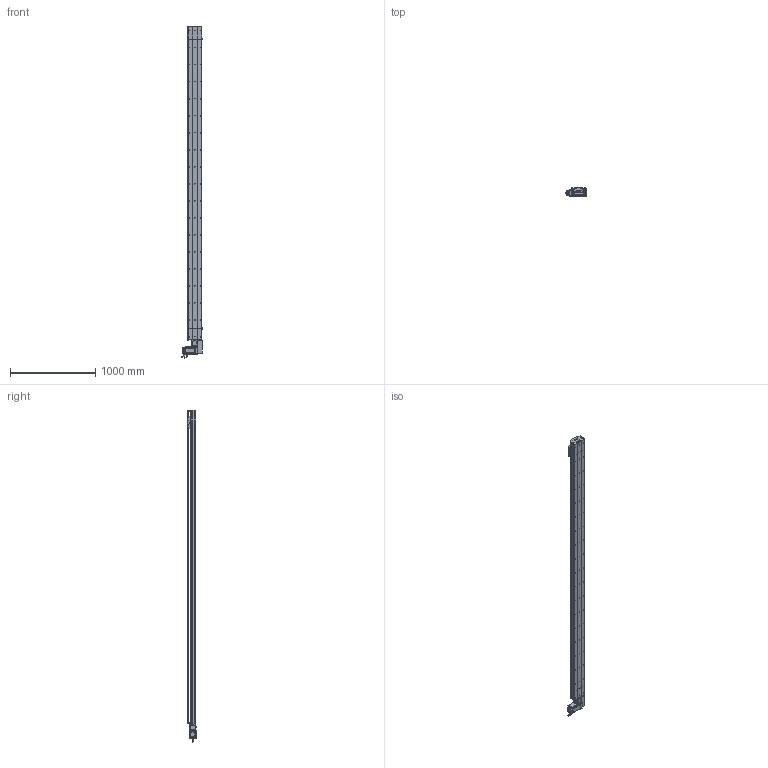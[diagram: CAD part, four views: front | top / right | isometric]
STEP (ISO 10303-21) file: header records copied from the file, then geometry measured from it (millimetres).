
FILE_DESCRIPTION (( 'STEP AP214' ), '1' );
FILE_NAME ('D17 TBH LH S3400.STEP', '2010-06-30T10:32:54', ( 'Christophe Gaillard' ), ( 'SGA' ), 'SwSTEP 2.0', 'SolidWorks 2010', '' );
FILE_SCHEMA (( 'AUTOMOTIVE_DESIGN' ));
Length unit declared in the file: millimetre
Products named in the file (40): Head LH D17B_Default; couvercle D17B head_Default; corpl head D17 _Default; corps 90BLDC125A-640; Conecteur2_Default; Couroie tail D17B_Default; vis M5 L12_Default; guide D17; Chariot D17; chariot D17S_Default; vis M5 L25_Default; vis M5 L8 90°_Default; couvercle D17B_Default; Moteur motionking 90BLDC125A-640; couroie head D17_Default; Renvoi LH_Default; Vis M5 L16-2_Default; Tail D17B_Default; corpl tail D17B_Default; tete d''axe poulie D17B; Rail D17B; poulie tail_Default; plaque de  bout tail D17B_Default; cache arbre D17_Default; cache D17_Default; couvercle D17B course L3400_Default; vis M5 L5_Default; poulie head_Default; plaque de  bout head D17B LH_Default; Arbre+rail head D17B; vis M5 L70_Default; Plaque racord D17_Default; vis M5 L16_Default; codeur 90BLDC125-640; Conecteur_Default; avant 90BLDC125A-640; D17 TBH LH S3400; course 3400 D17B_Default; Couroie+ rail D17 Course 3400 ; corp D17B 3400_Default
Assembly tree (70 placements, depth 4):
  D17 TBH LH S3400
    Tail D17B_Default
      vis M5 L25_Default  x2
      poulie tail_Default
      vis M5 L12_Default  x4
      couvercle D17B_Default
      Couroie tail D17B_Default
      corpl tail D17B_Default
      vis M5 L8 90°_Default  x2
      plaque de  bout tail D17B_Default
      Rail D17B
      tete d''axe poulie D17B
    Head LH D17B_Default
      vis M5 L12_Default  x8
      vis M5 L70_Default  x4
      couroie head D17_Default
      Arbre+rail head D17B
      vis M5 L25_Default  x2
      vis M5 L16_Default  x2
      cache D17_Default  x2
      Plaque racord D17_Default
      plaque de  bout head D17B LH_Default
      Vis M5 L16-2_Default  x4
      couvercle D17B head_Default
      Renvoi LH_Default
      corpl head D17 _Default
      cache arbre D17_Default
      vis M5 L5_Default  x4
      Moteur motionking 90BLDC125A-640
        corps 90BLDC125A-640
        codeur 90BLDC125-640
        Conecteur_Default
        avant 90BLDC125A-640
        Conecteur2_Default
      poulie head_Default
    chariot D17S_Default
      Chariot D17
      vis M5 L12_Default  x4
      guide D17  x2
    course 3400 D17B_Default
      couvercle D17B course L3400_Default
      Couroie+ rail D17 Course 3400 
      corp D17B 3400_Default
Bounding box: 245.2 x 105.65 x 3900.95 mm (x, y, z)
Volume: 21531532.4 mm3; surface area: 6298861.2 mm2
Topology: 94 solids, 94 shells, 2797 faces, 7173 edges, 4614 vertices
Faces by surface type: plane 1607, cylinder 877, bspline 136, cone 88, torus 85, sphere 4
Entity records: 88800 total; most frequent: CARTESIAN_POINT 25961, ORIENTED_EDGE 11118, DIRECTION 10524, EDGE_CURVE 5559, VERTEX_POINT 3638, VECTOR 3582, LINE 3582, AXIS2_PLACEMENT_3D 3471
